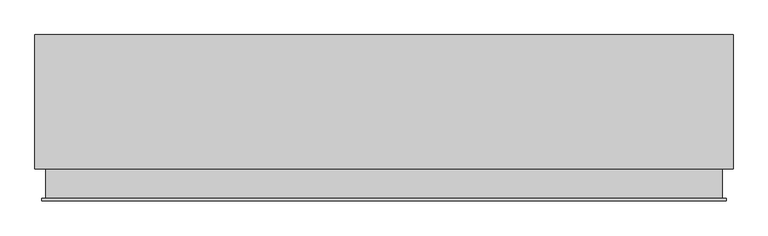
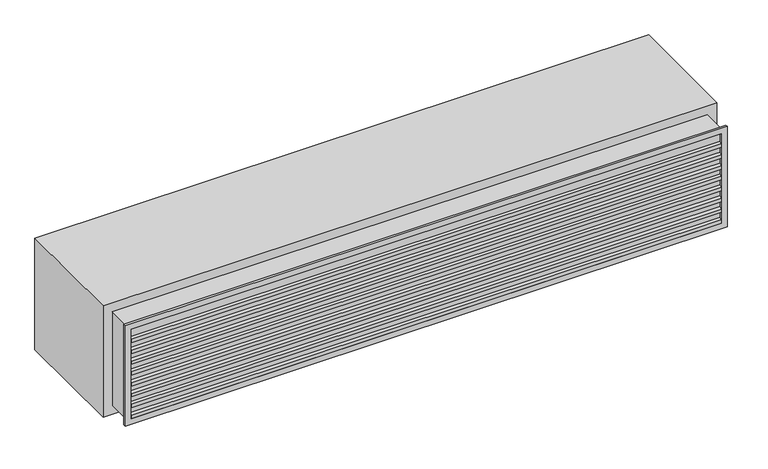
"""IFC4 building model written with IfcOpenShell, lengths in millimetres: air terminal geometry, 020_外気取入ガラリ : 外気取入ガラリ."""

from ifc_helpers import new_model, si_unit, frame, origin, place, context, project, spatial, polyline, outline, extrude, faceted_brep, source, transform, mapped, element, save


def air_terminal_7d565afa(model_context):
    return source(origin(), model_context, "Body", "SolidModel", [
        extrude(outline(polyline([(48.0, 151.4285714), (50.0, 151.4285714), (50.0, 135.2113538), (-8.0, 105.2113538), (-8.0, 91.4285714), (-10.0, 91.4285714), (-10.0, 106.4285714), (48.0, 136.4285714), (48.0, 151.4285714)])), frame((-1250.0, 0.0, 0.0), z_axis=(1.0, 0.0, 0.0), x_axis=(0.0, 1.0, 0.0)), (0.0, 0.0, 1.0), 2500.0),
        extrude(outline(polyline([(48.0, 102.8571429), (50.0, 102.8571429), (50.0, 86.6399252), (-8.0, 56.6399252), (-8.0, 42.8571429), (-10.0, 42.8571429), (-10.0, 57.8571429), (48.0, 87.8571429), (48.0, 102.8571429)])), frame((-1250.0, 0.0, 0.0), z_axis=(1.0, 0.0, 0.0), x_axis=(0.0, 1.0, 0.0)), (0.0, 0.0, 1.0), 2500.0),
        extrude(outline(polyline([(48.0, 54.2857143), (50.0, 54.2857143), (50.0, 38.0684967), (-8.0, 8.0684967), (-8.0, -5.7142857), (-10.0, -5.7142857), (-10.0, 9.2857143), (48.0, 39.2857143), (48.0, 54.2857143)])), frame((-1250.0, 0.0, 0.0), z_axis=(1.0, 0.0, 0.0), x_axis=(0.0, 1.0, 0.0)), (0.0, 0.0, 1.0), 2500.0),
        extrude(outline(polyline([(48.0, 5.7142857), (50.0, 5.7142857), (50.0, -10.5029319), (-8.0, -40.5029319), (-8.0, -54.2857143), (-10.0, -54.2857143), (-10.0, -39.2857143), (48.0, -9.2857143), (48.0, 5.7142857)])), frame((-1250.0, 0.0, 0.0), z_axis=(1.0, 0.0, 0.0), x_axis=(0.0, 1.0, 0.0)), (0.0, 0.0, 1.0), 2500.0),
        extrude(outline(polyline([(48.0, -42.8571429), (50.0, -42.8571429), (50.0, -59.0743605), (-8.0, -89.0743605), (-8.0, -102.8571429), (-10.0, -102.8571429), (-10.0, -87.8571429), (48.0, -57.8571429), (48.0, -42.8571429)])), frame((-1250.0, 0.0, 0.0), z_axis=(1.0, 0.0, 0.0), x_axis=(0.0, 1.0, 0.0)), (0.0, 0.0, 1.0), 2500.0),
        extrude(outline(polyline([(48.0, -91.4285714), (50.0, -91.4285714), (50.0, -107.645789), (-8.0, -137.645789), (-8.0, -151.4285714), (-10.0, -151.4285714), (-10.0, -136.4285714), (48.0, -106.4285714), (48.0, -91.4285714)])), frame((-1250.0, 0.0, 0.0), z_axis=(1.0, 0.0, 0.0), x_axis=(0.0, 1.0, 0.0)), (0.0, 0.0, 1.0), 2500.0),
        extrude(outline(polyline([(48.0, 200.0), (50.0, 200.0), (50.0, 183.7827824), (-8.0, 153.7827824), (-8.0, 140.0), (-10.0, 140.0), (-10.0, 155.0), (48.0, 185.0), (48.0, 200.0)])), frame((-1250.0, 0.0, 0.0), z_axis=(1.0, 0.0, 0.0), x_axis=(0.0, 1.0, 0.0)), (0.0, 0.0, 1.0), 2500.0),
        extrude(outline(polyline([(48.0, -140.0), (50.0, -140.0), (50.0, -156.2172176), (-8.0, -186.2172176), (-8.0, -200.0), (-10.0, -200.0), (-10.0, -185.0), (48.0, -155.0), (48.0, -140.0)])), frame((-1250.0, 0.0, 0.0), z_axis=(1.0, 0.0, 0.0), x_axis=(0.0, 1.0, 0.0)), (0.0, 0.0, 1.0), 2500.0),
        faceted_brep([(1250.0, -10.0, 200.0), (1250.0, 110.0, 200.0), (1250.0, 110.0, -200.0), (1250.0, -10.0, -200.0), (1275.0, 0.0, 225.0), (1275.0, -10.0, 225.0), (1275.0, -10.0, -225.0), (1275.0, 0.0, -225.0), (1260.0, 110.0, 210.0), (1260.0, 0.0, 210.0), (1260.0, 0.0, -210.0), (1260.0, 110.0, -210.0), (-1250.0, 110.0, -200.0), (-1250.0, -10.0, -200.0), (-1275.0, -10.0, -225.0), (-1275.0, 0.0, -225.0), (-1260.0, 0.0, -210.0), (-1260.0, 110.0, -210.0), (-1250.0, 110.0, 200.0), (-1250.0, -10.0, 200.0), (-1275.0, -10.0, 225.0), (-1275.0, 0.0, 225.0), (-1260.0, 0.0, 210.0), (-1260.0, 110.0, 210.0)], [[[0, 1, 2, 3]], [[4, 5, 6, 7]], [[8, 9, 10, 11]], [[3, 2, 12, 13]], [[7, 6, 14, 15]], [[11, 10, 16, 17]], [[13, 12, 18, 19]], [[15, 14, 20, 21]], [[17, 16, 22, 23]], [[19, 18, 1, 0]], [[5, 20, 14, 6], [3, 13, 19, 0]], [[21, 20, 5, 4]], [[7, 15, 21, 4], [9, 22, 16, 10]], [[23, 22, 9, 8]], [[11, 17, 23, 8], [1, 18, 12, 2]]]),
        extrude(outline(polyline([(1250.0, 0.0), (-1250.0, 0.0), (-1250.0, 10.0), (1250.0, 10.0), (1250.0, 0.0)])), frame((0.0, 0.0, -200.0), z_axis=(0.0, 0.0, 1.0), x_axis=(1.0, 0.0, 0.0)), (0.0, 0.0, 1.0), 400.0),
        extrude(outline(polyline([(1300.0, 110.0), (-1300.0, 110.0), (-1300.0, 610.0), (1300.0, 610.0), (1300.0, 110.0)])), frame((0.0, 0.0, -250.0), z_axis=(0.0, 0.0, 1.0), x_axis=(1.0, 0.0, 0.0)), (0.0, 0.0, 1.0), 500.0),
    ])


if __name__ == "__main__":
    model = new_model("IFC4")
    model_context = context("Model", 3, world=origin())
    ifc_project = project(units=[si_unit("LENGTHUNIT", "METRE", prefix="MILLI")], contexts=[model_context])
    site = spatial("IfcSite", under=ifc_project)
    building = spatial("IfcBuilding", under=site)
    placement = place(None, origin())
    air_terminal_shape = air_terminal_7d565afa(model_context)
    element("IfcAirTerminal", 1, ObjectType="020_外気取入ガラリ : 外気取入ガラリ", at=placement, inside=building, context=model_context, shape_type="MappedRepresentation", body=[
        mapped(air_terminal_shape, transform((0.0, 0.0, 0.0), x_axis=(1.0, 0.0, 0.0), y_axis=(0.0, 1.0, 0.0), z_axis=(0.0, 0.0, 1.0))),
    ])
    save(model, "model.ifc")
